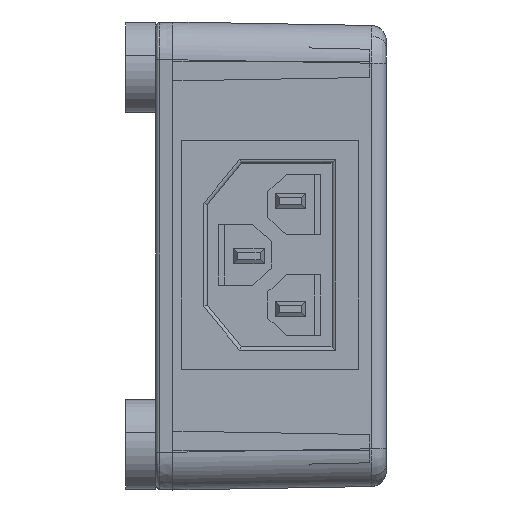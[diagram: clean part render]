
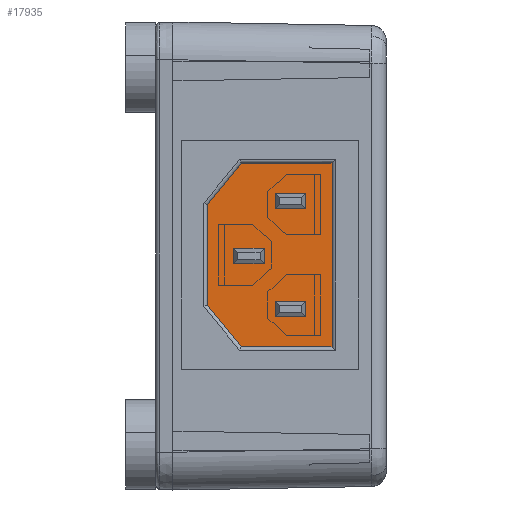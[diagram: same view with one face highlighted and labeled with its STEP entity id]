
A CAD part, left-side view. The second image highlights one B-rep face of the part: STEP entity #17935.
In plain terms, the highlighted planar face has unit normal (-1, 0, 0) as drawn and (0, 0, 1) by its records, which use the part's own axes.
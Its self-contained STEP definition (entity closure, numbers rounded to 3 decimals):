
#194 = VERTEX_POINT ( 'NONE', #1208 ) ;
#335 = CARTESIAN_POINT ( 'NONE',  ( 14., 16.5, -21. ) ) ;
#403 = LINE ( 'NONE', #335, #6296 ) ;
#454 = EDGE_LOOP ( 'NONE', ( #11520, #8193, #13276, #15529 ) ) ;
#475 = LINE ( 'NONE', #26657, #32135 ) ;
#528 = EDGE_CURVE ( 'NONE', #23011, #6125, #10549, .T. ) ;
#608 = EDGE_CURVE ( 'NONE', #24730, #18739, #13292, .T. ) ;
#1093 = CARTESIAN_POINT ( 'NONE',  ( 21.3, 11., -21. ) ) ;
#1208 = CARTESIAN_POINT ( 'NONE',  ( 23.3, 7., -21. ) ) ;
#1547 = CARTESIAN_POINT ( 'NONE',  ( 21.3, 11., -21. ) ) ;
#1770 = VECTOR ( 'NONE', #30250, 1000. ) ;
#1914 = CARTESIAN_POINT ( 'NONE',  ( 23.3, 11., -21. ) ) ;
#1978 = EDGE_CURVE ( 'NONE', #18162, #9742, #9234, .T. ) ;
#2308 = LINE ( 'NONE', #3354, #28128 ) ;
#2449 = LINE ( 'NONE', #3205, #21637 ) ;
#2631 = EDGE_CURVE ( 'NONE', #3049, #26350, #475, .T. ) ;
#2982 = CARTESIAN_POINT ( 'NONE',  ( 3., 3.5, -21. ) ) ;
#3049 = VERTEX_POINT ( 'NONE', #3901 ) ;
#3205 = CARTESIAN_POINT ( 'NONE',  ( 27.3, 15.5, -21. ) ) ;
#3354 = CARTESIAN_POINT ( 'NONE',  ( 27.3, 3.5, -21. ) ) ;
#3616 = LINE ( 'NONE', #10761, #16183 ) ;
#3759 = DIRECTION ( 'NONE',  ( 0., -1., 0. ) ) ;
#3901 = CARTESIAN_POINT ( 'NONE',  ( 9., 11., -21. ) ) ;
#4067 = DIRECTION ( 'NONE',  ( 0., 1., 0. ) ) ;
#4306 = EDGE_LOOP ( 'NONE', ( #27511, #21235, #26067, #27259 ) ) ;
#4462 = EDGE_CURVE ( 'NONE', #9817, #29166, #403, .T. ) ;
#4644 = CARTESIAN_POINT ( 'NONE',  ( 9., 11., -21. ) ) ;
#4816 = VECTOR ( 'NONE', #11271, 1000. ) ;
#4860 = EDGE_CURVE ( 'NONE', #25484, #23011, #2308, .T. ) ;
#5057 = VECTOR ( 'NONE', #30245, 1000. ) ;
#5060 = EDGE_CURVE ( 'NONE', #9742, #9817, #12889, .T. ) ;
#5238 = FACE_BOUND ( 'NONE', #454, .T. ) ;
#5259 = CARTESIAN_POINT ( 'NONE',  ( 16., 16.5, -21. ) ) ;
#5764 = DIRECTION ( 'NONE',  ( 0.774, -0.633, 0. ) ) ;
#6125 = VERTEX_POINT ( 'NONE', #11278 ) ;
#6142 = EDGE_CURVE ( 'NONE', #26350, #15189, #14725, .T. ) ;
#6296 = VECTOR ( 'NONE', #15233, 1000. ) ;
#6443 = AXIS2_PLACEMENT_3D ( 'NONE', #23950, #11471, #28926 ) ;
#7215 = ORIENTED_EDGE ( 'NONE', *, *, #7404, .F. ) ;
#7404 = EDGE_CURVE ( 'NONE', #6125, #18386, #3616, .T. ) ;
#7478 = DIRECTION ( 'NONE',  ( 0., -1., 0. ) ) ;
#7548 = CARTESIAN_POINT ( 'NONE',  ( 16., 12.5, -21. ) ) ;
#7839 = EDGE_CURVE ( 'NONE', #13643, #24730, #24738, .T. ) ;
#7849 = CARTESIAN_POINT ( 'NONE',  ( 21.8, 20., -21. ) ) ;
#8092 = VECTOR ( 'NONE', #25937, 1000. ) ;
#8193 = ORIENTED_EDGE ( 'NONE', *, *, #2631, .F. ) ;
#8638 = PLANE ( 'NONE',  #6443 ) ;
#9234 = LINE ( 'NONE', #23289, #1770 ) ;
#9248 = CARTESIAN_POINT ( 'NONE',  ( 3., 15.5, -21. ) ) ;
#9742 = VERTEX_POINT ( 'NONE', #7548 ) ;
#9762 = CARTESIAN_POINT ( 'NONE',  ( 14., 16.5, -21. ) ) ;
#9812 = VERTEX_POINT ( 'NONE', #31385 ) ;
#9817 = VERTEX_POINT ( 'NONE', #30731 ) ;
#10277 = CARTESIAN_POINT ( 'NONE',  ( 8.5, 20., -21. ) ) ;
#10549 = LINE ( 'NONE', #2982, #28891 ) ;
#10601 = CARTESIAN_POINT ( 'NONE',  ( 7., 7., -21. ) ) ;
#10761 = CARTESIAN_POINT ( 'NONE',  ( 3., 15.5, -21. ) ) ;
#10826 = VERTEX_POINT ( 'NONE', #31986 ) ;
#10910 = LINE ( 'NONE', #1914, #16797 ) ;
#11175 = VECTOR ( 'NONE', #18919, 1000. ) ;
#11271 = DIRECTION ( 'NONE',  ( 0., -1., 0. ) ) ;
#11278 = CARTESIAN_POINT ( 'NONE',  ( 3., 3.5, -21. ) ) ;
#11471 = DIRECTION ( 'NONE',  ( 0., 0., -1. ) ) ;
#11520 = ORIENTED_EDGE ( 'NONE', *, *, #6142, .F. ) ;
#11592 = EDGE_LOOP ( 'NONE', ( #18726, #18963, #24264, #30429 ) ) ;
#12143 = EDGE_CURVE ( 'NONE', #15189, #10826, #23243, .T. ) ;
#12526 = LINE ( 'NONE', #10277, #5057 ) ;
#12889 = LINE ( 'NONE', #5259, #26173 ) ;
#13145 = DIRECTION ( 'NONE',  ( 1., 0., 0. ) ) ;
#13222 = VECTOR ( 'NONE', #17882, 1000. ) ;
#13276 = ORIENTED_EDGE ( 'NONE', *, *, #32055, .F. ) ;
#13292 = LINE ( 'NONE', #21299, #32427 ) ;
#13643 = VERTEX_POINT ( 'NONE', #21074 ) ;
#14201 = DIRECTION ( 'NONE',  ( -1., 0., 0. ) ) ;
#14508 = EDGE_CURVE ( 'NONE', #18739, #194, #23727, .T. ) ;
#14593 = ORIENTED_EDGE ( 'NONE', *, *, #528, .F. ) ;
#14603 = VECTOR ( 'NONE', #32072, 1000. ) ;
#14725 = LINE ( 'NONE', #14810, #8092 ) ;
#14810 = CARTESIAN_POINT ( 'NONE',  ( 7., 11., -21. ) ) ;
#14822 = DIRECTION ( 'NONE',  ( -1., 0., 0. ) ) ;
#15189 = VERTEX_POINT ( 'NONE', #19436 ) ;
#15233 = DIRECTION ( 'NONE',  ( -1., 0., 0. ) ) ;
#15529 = ORIENTED_EDGE ( 'NONE', *, *, #12143, .F. ) ;
#15719 = EDGE_CURVE ( 'NONE', #29166, #18162, #31388, .T. ) ;
#16183 = VECTOR ( 'NONE', #4067, 1000. ) ;
#16393 = EDGE_CURVE ( 'NONE', #9812, #25484, #2449, .T. ) ;
#16399 = CARTESIAN_POINT ( 'NONE',  ( 21.3, 7., -21. ) ) ;
#16753 = DIRECTION ( 'NONE',  ( 0., 1., 0. ) ) ;
#16797 = VECTOR ( 'NONE', #21972, 1000. ) ;
#17780 = FACE_BOUND ( 'NONE', #11592, .T. ) ;
#17882 = DIRECTION ( 'NONE',  ( 1., 0., 0. ) ) ;
#17935 = ADVANCED_FACE ( 'NONE', ( #17780, #18563, #5238, #24406 ), #8638, .F. ) ;
#18162 = VERTEX_POINT ( 'NONE', #19479 ) ;
#18386 = VERTEX_POINT ( 'NONE', #9248 ) ;
#18563 = FACE_OUTER_BOUND ( 'NONE', #27437, .T. ) ;
#18726 = ORIENTED_EDGE ( 'NONE', *, *, #15719, .F. ) ;
#18739 = VERTEX_POINT ( 'NONE', #22910 ) ;
#18895 = VECTOR ( 'NONE', #14822, 1000. ) ;
#18907 = CARTESIAN_POINT ( 'NONE',  ( 27.3, 3.5, -21. ) ) ;
#18919 = DIRECTION ( 'NONE',  ( 1., 0., 0. ) ) ;
#18963 = ORIENTED_EDGE ( 'NONE', *, *, #4462, .F. ) ;
#19436 = CARTESIAN_POINT ( 'NONE',  ( 7., 7., -21. ) ) ;
#19479 = CARTESIAN_POINT ( 'NONE',  ( 14., 12.5, -21. ) ) ;
#19906 = LINE ( 'NONE', #7849, #13222 ) ;
#20243 = EDGE_CURVE ( 'NONE', #194, #13643, #10910, .T. ) ;
#21074 = CARTESIAN_POINT ( 'NONE',  ( 23.3, 11., -21. ) ) ;
#21235 = ORIENTED_EDGE ( 'NONE', *, *, #7839, .F. ) ;
#21299 = CARTESIAN_POINT ( 'NONE',  ( 21.3, 11., -21. ) ) ;
#21637 = VECTOR ( 'NONE', #5764, 1000. ) ;
#21972 = DIRECTION ( 'NONE',  ( 0., 1., 0. ) ) ;
#22184 = ORIENTED_EDGE ( 'NONE', *, *, #16393, .F. ) ;
#22219 = ORIENTED_EDGE ( 'NONE', *, *, #25492, .F. ) ;
#22458 = VECTOR ( 'NONE', #13145, 1000. ) ;
#22749 = CARTESIAN_POINT ( 'NONE',  ( 27.3, 15.5, -21. ) ) ;
#22910 = CARTESIAN_POINT ( 'NONE',  ( 21.3, 7., -21. ) ) ;
#23011 = VERTEX_POINT ( 'NONE', #18907 ) ;
#23243 = LINE ( 'NONE', #10601, #22458 ) ;
#23289 = CARTESIAN_POINT ( 'NONE',  ( 14., 12.5, -21. ) ) ;
#23727 = LINE ( 'NONE', #16399, #11175 ) ;
#23950 = CARTESIAN_POINT ( 'NONE',  ( 15.15, 25.441, -21. ) ) ;
#24264 = ORIENTED_EDGE ( 'NONE', *, *, #5060, .F. ) ;
#24314 = ORIENTED_EDGE ( 'NONE', *, *, #4860, .F. ) ;
#24406 = FACE_BOUND ( 'NONE', #4306, .T. ) ;
#24730 = VERTEX_POINT ( 'NONE', #1547 ) ;
#24738 = LINE ( 'NONE', #1093, #18895 ) ;
#25484 = VERTEX_POINT ( 'NONE', #22749 ) ;
#25492 = EDGE_CURVE ( 'NONE', #18386, #28112, #12526, .T. ) ;
#25937 = DIRECTION ( 'NONE',  ( 0., -1., 0. ) ) ;
#26067 = ORIENTED_EDGE ( 'NONE', *, *, #20243, .F. ) ;
#26166 = CARTESIAN_POINT ( 'NONE',  ( 14., 16.5, -21. ) ) ;
#26173 = VECTOR ( 'NONE', #16753, 1000. ) ;
#26350 = VERTEX_POINT ( 'NONE', #26737 ) ;
#26657 = CARTESIAN_POINT ( 'NONE',  ( 7., 11., -21. ) ) ;
#26737 = CARTESIAN_POINT ( 'NONE',  ( 7., 11., -21. ) ) ;
#27259 = ORIENTED_EDGE ( 'NONE', *, *, #14508, .F. ) ;
#27286 = ORIENTED_EDGE ( 'NONE', *, *, #30334, .F. ) ;
#27437 = EDGE_LOOP ( 'NONE', ( #22219, #7215, #14593, #24314, #22184, #27286 ) ) ;
#27511 = ORIENTED_EDGE ( 'NONE', *, *, #608, .F. ) ;
#27883 = LINE ( 'NONE', #4644, #14603 ) ;
#27918 = DIRECTION ( 'NONE',  ( -1., 0., 0. ) ) ;
#28112 = VERTEX_POINT ( 'NONE', #30309 ) ;
#28128 = VECTOR ( 'NONE', #7478, 1000. ) ;
#28891 = VECTOR ( 'NONE', #27918, 1000. ) ;
#28926 = DIRECTION ( 'NONE',  ( -1., 0., 0. ) ) ;
#29166 = VERTEX_POINT ( 'NONE', #9762 ) ;
#30245 = DIRECTION ( 'NONE',  ( 0.774, 0.633, 0. ) ) ;
#30250 = DIRECTION ( 'NONE',  ( 1., 0., 0. ) ) ;
#30309 = CARTESIAN_POINT ( 'NONE',  ( 8.5, 20., -21. ) ) ;
#30334 = EDGE_CURVE ( 'NONE', #28112, #9812, #19906, .T. ) ;
#30429 = ORIENTED_EDGE ( 'NONE', *, *, #1978, .F. ) ;
#30731 = CARTESIAN_POINT ( 'NONE',  ( 16., 16.5, -21. ) ) ;
#31385 = CARTESIAN_POINT ( 'NONE',  ( 21.8, 20., -21. ) ) ;
#31388 = LINE ( 'NONE', #26166, #4816 ) ;
#31986 = CARTESIAN_POINT ( 'NONE',  ( 9., 7., -21. ) ) ;
#32055 = EDGE_CURVE ( 'NONE', #10826, #3049, #27883, .T. ) ;
#32072 = DIRECTION ( 'NONE',  ( 0., 1., 0. ) ) ;
#32135 = VECTOR ( 'NONE', #14201, 1000. ) ;
#32427 = VECTOR ( 'NONE', #3759, 1000. ) ;
